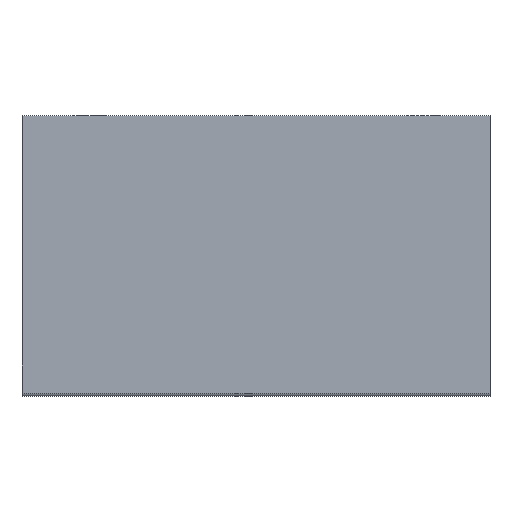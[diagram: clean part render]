
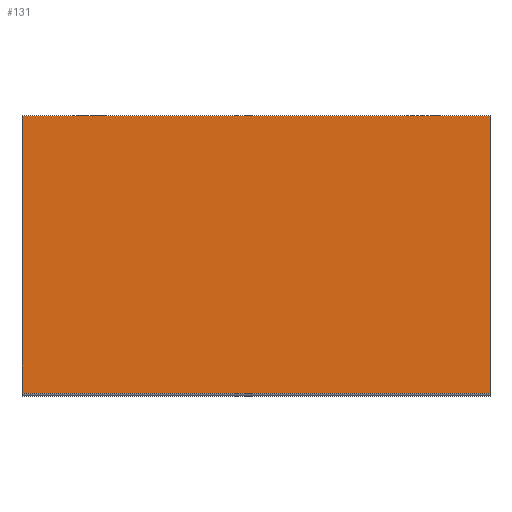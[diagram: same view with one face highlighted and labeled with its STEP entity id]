
A CAD part, top view. The second image highlights one B-rep face of the part: STEP entity #131.
In plain terms, the highlighted planar face has unit normal (0, 0, 1).
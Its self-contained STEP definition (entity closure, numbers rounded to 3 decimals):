
#127 = EDGE_CURVE( '', #183, #247, #329, .T. );
#131 = ADVANCED_FACE( '', ( #333 ), #334, .T. );
#169 = VERTEX_POINT( '', #379 );
#171 = EDGE_CURVE( '', #169, #183, #381, .T. );
#175 = EDGE_CURVE( '', #169, #213, #386, .T. );
#183 = VERTEX_POINT( '', #396 );
#213 = VERTEX_POINT( '', #430 );
#247 = VERTEX_POINT( '', #464 );
#301 = EDGE_CURVE( '', #213, #247, #524, .T. );
#329 = LINE( '', #550, #551 );
#333 = FACE_OUTER_BOUND( '', #556, .T. );
#334 = PLANE( '', #557 );
#379 = CARTESIAN_POINT( '', ( 60., 0., 20. ) );
#381 = LINE( '', #618, #619 );
#386 = LINE( '', #625, #626 );
#396 = CARTESIAN_POINT( '', ( -10., 0., 20. ) );
#430 = CARTESIAN_POINT( '', ( 60., -41.5, 20. ) );
#464 = CARTESIAN_POINT( '', ( -10., -41.5, 20. ) );
#524 = LINE( '', #807, #808 );
#550 = CARTESIAN_POINT( '', ( -10., 0., 20. ) );
#551 = VECTOR( '', #816, 1. );
#556 = EDGE_LOOP( '', ( #821, #822, #823, #824 ) );
#557 = AXIS2_PLACEMENT_3D( '', #825, #826, #827 );
#618 = CARTESIAN_POINT( '', ( 60., 0., 20. ) );
#619 = VECTOR( '', #886, 1. );
#625 = CARTESIAN_POINT( '', ( 60., 0., 20. ) );
#626 = VECTOR( '', #895, 1. );
#807 = CARTESIAN_POINT( '', ( 60., -41.5, 20. ) );
#808 = VECTOR( '', #1049, 1. );
#816 = DIRECTION( '', ( 0., -1., 0. ) );
#821 = ORIENTED_EDGE( '', *, *, #127, .T. );
#822 = ORIENTED_EDGE( '', *, *, #301, .F. );
#823 = ORIENTED_EDGE( '', *, *, #175, .F. );
#824 = ORIENTED_EDGE( '', *, *, #171, .T. );
#825 = CARTESIAN_POINT( '', ( 60., 0., 20. ) );
#826 = DIRECTION( '', ( 0., 0., 1. ) );
#827 = DIRECTION( '', ( 0., 1., 0. ) );
#886 = DIRECTION( '', ( -1., 0., 0. ) );
#895 = DIRECTION( '', ( 0., -1., 0. ) );
#1049 = DIRECTION( '', ( -1., 0., 0. ) );
